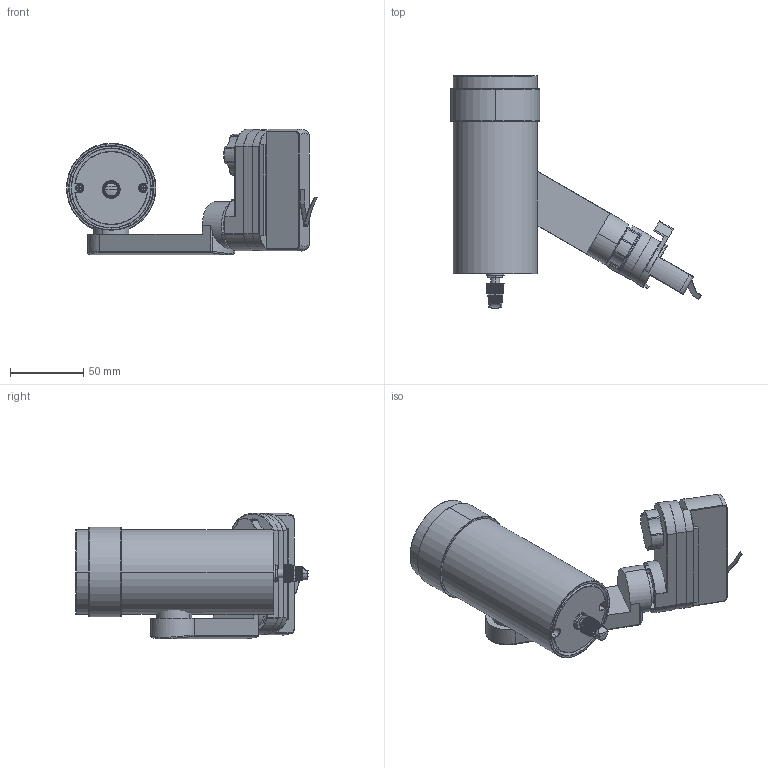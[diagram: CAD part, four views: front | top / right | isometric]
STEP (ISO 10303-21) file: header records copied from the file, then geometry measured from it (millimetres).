
FILE_DESCRIPTION((''),'2;1');
FILE_NAME('SHOWGUN-10_ASM','2025-03-25T17:18:38',('ALY'),(''),'CREO PARAMETRIC BY PTC INC, 2022164','CREO PARAMETRIC BY PTC INC, 2022164','');
FILE_SCHEMA(('AUTOMOTIVE_DESIGN { 1 0 10303 214 1 1 1 1 }'));
Length unit declared in the file: millimetre
Products named in the file (5): SHOWGUN-100; 0001; 0002; M3X6-0001; SHOWGUN-10_ASM
Assembly tree (5 placements, depth 2):
  SHOWGUN-10_ASM
    SHOWGUN-100
    0001
    0002
    M3X6-0001  x2
Bounding box: 171.09 x 158.5 x 85.5 mm (x, y, z)
Volume: 469045.2 mm3; surface area: 73067.3 mm2
Topology: 5 solids, 5 shells, 855 faces, 2259 edges, 1467 vertices
Faces by surface type: plane 469, cylinder 156, cone 128, torus 66, bspline 20, sphere 16
Entity records: 34589 total; most frequent: CARTESIAN_POINT 7744, DIRECTION 4256, ORIENTED_EDGE 4128, EDGE_CURVE 2064, AXIS2_PLACEMENT_3D 1478, VERTEX_POINT 1302, VECTOR 1300, LINE 1300
